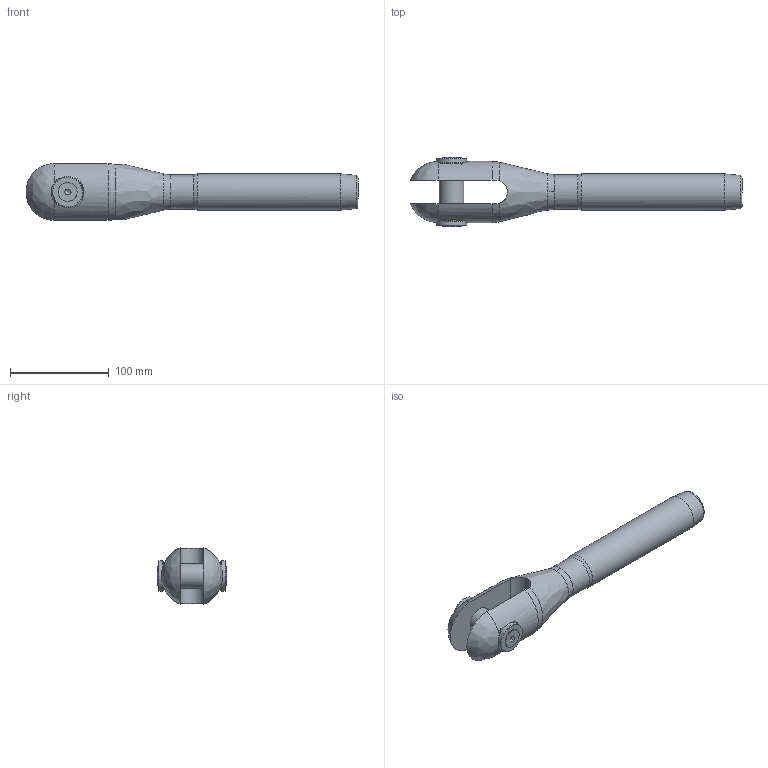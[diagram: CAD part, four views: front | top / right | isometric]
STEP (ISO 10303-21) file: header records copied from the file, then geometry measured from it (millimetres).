
FILE_DESCRIPTION(/* description */ (''),/* implementation_level */ '2;1');
FILE_NAME(/* name */ 'MAC 18_42CrMo4',/* time_stamp */ '2023-05-23T16:55:16+02:00',/* author */ (''),/* organization */ (''),/* preprocessor_version */ 'ST-DEVELOPER v16.5',/* originating_system */ 'Rhino 7.22',/* authorisation */ '');
FILE_SCHEMA (('CONFIG_CONTROL_DESIGN'));
Length unit declared in the file: millimetre
Products named in the file (1): Document
Bounding box: 335.57 x 69.91 x 57.17 mm (x, y, z)
Volume: 426574 mm3; surface area: 67984.4 mm2
Topology: 6 solids, 6 shells, 75 faces, 210 edges, 145 vertices
Faces by surface type: plane 29, bspline 24, cylinder 22
Full cylindrical faces by diameter (mm): 8.376 x2, 10 x2, 10.5 x2, 19.22 x2, 25 x1, 27 x2, 31 x2, 35 x1, 36.8 x1
Entity records: 3114 total; most frequent: CARTESIAN_POINT 1767, ORIENTED_EDGE 412, EDGE_CURVE 206, VERTEX_POINT 145, EDGE_LOOP 85, B_SPLINE_CURVE_WITH_KNOTS 84, ADVANCED_FACE 75, FACE_OUTER_BOUND 75
